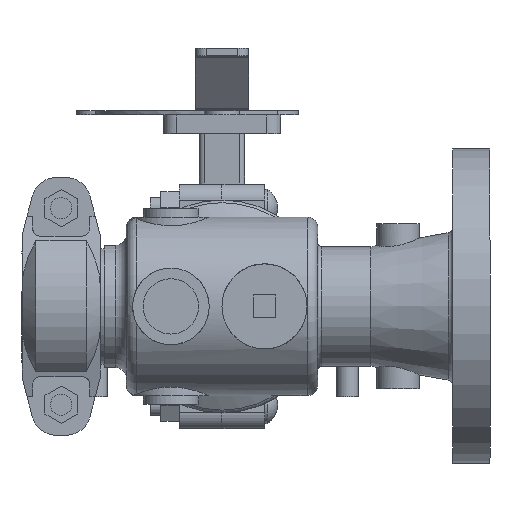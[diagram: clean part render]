
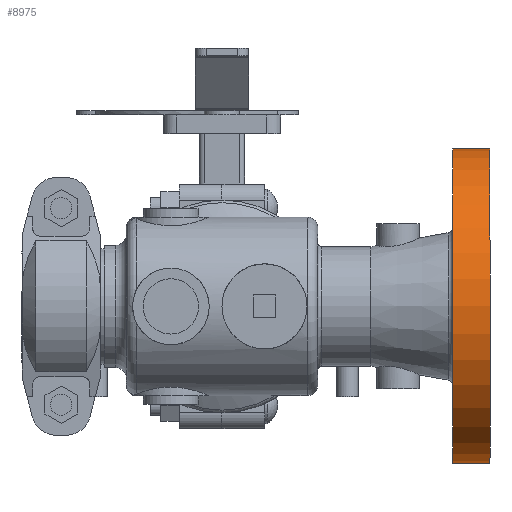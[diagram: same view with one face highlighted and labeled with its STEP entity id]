
A CAD part, front view. The second image highlights one B-rep face of the part: STEP entity #8975.
In plain terms, the highlighted cylindrical face has radius 93.98 mm (diameter 187.96 mm), a full revolution.
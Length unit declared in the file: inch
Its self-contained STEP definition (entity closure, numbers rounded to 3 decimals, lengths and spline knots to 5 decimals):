
#641=FACE_OUTER_BOUND('',#1144,.T.);
#1144=EDGE_LOOP('',(#5863,#5864,#5865,#5866,#5867,#5868));
#1776=CIRCLE('',#9713,3.7);
#1777=CIRCLE('',#9714,3.7);
#1782=CIRCLE('',#9720,3.7);
#1783=CIRCLE('',#9721,3.7);
#2243=LINE('',#14249,#2906);
#2906=VECTOR('',#10864,3.7);
#3607=VERTEX_POINT('',#14235);
#3608=VERTEX_POINT('',#14236);
#3613=VERTEX_POINT('',#14248);
#3614=VERTEX_POINT('',#14250);
#4503=EDGE_CURVE('',#3607,#3608,#1776,.T.);
#4504=EDGE_CURVE('',#3608,#3607,#1777,.T.);
#4509=EDGE_CURVE('',#3608,#3613,#2243,.T.);
#4510=EDGE_CURVE('',#3613,#3614,#1782,.T.);
#4511=EDGE_CURVE('',#3614,#3613,#1783,.T.);
#5863=ORIENTED_EDGE('',*,*,#4503,.F.);
#5864=ORIENTED_EDGE('',*,*,#4504,.F.);
#5865=ORIENTED_EDGE('',*,*,#4509,.T.);
#5866=ORIENTED_EDGE('',*,*,#4510,.T.);
#5867=ORIENTED_EDGE('',*,*,#4511,.T.);
#5868=ORIENTED_EDGE('',*,*,#4509,.F.);
#8278=CYLINDRICAL_SURFACE('',#9719,3.7);
#8975=ADVANCED_FACE('',(#641),#8278,.T.);
#9713=AXIS2_PLACEMENT_3D('',#14237,#10850,#10851);
#9714=AXIS2_PLACEMENT_3D('',#14238,#10852,#10853);
#9719=AXIS2_PLACEMENT_3D('',#14247,#10862,#10863);
#9720=AXIS2_PLACEMENT_3D('',#14251,#10865,#10866);
#9721=AXIS2_PLACEMENT_3D('',#14252,#10867,#10868);
#10850=DIRECTION('center_axis',(1.,0.,0.));
#10851=DIRECTION('ref_axis',(0.,0.,-1.));
#10852=DIRECTION('center_axis',(1.,0.,0.));
#10853=DIRECTION('ref_axis',(0.,0.,-1.));
#10862=DIRECTION('center_axis',(1.,0.,0.));
#10863=DIRECTION('ref_axis',(0.,1.,0.));
#10864=DIRECTION('',(-1.,0.,0.));
#10865=DIRECTION('center_axis',(1.,0.,0.));
#10866=DIRECTION('ref_axis',(0.,0.,-1.));
#10867=DIRECTION('center_axis',(1.,0.,0.));
#10868=DIRECTION('ref_axis',(0.,0.,-1.));
#14235=CARTESIAN_POINT('',(6.3,3.7,0.));
#14236=CARTESIAN_POINT('',(6.3,-3.7,0.));
#14237=CARTESIAN_POINT('Origin',(6.3,0.,0.));
#14238=CARTESIAN_POINT('Origin',(6.3,0.,0.));
#14247=CARTESIAN_POINT('Origin',(5.86,0.,0.));
#14248=CARTESIAN_POINT('',(5.42,-3.7,0.));
#14249=CARTESIAN_POINT('',(5.86,-3.7,0.));
#14250=CARTESIAN_POINT('',(5.42,3.7,0.));
#14251=CARTESIAN_POINT('Origin',(5.42,0.,0.));
#14252=CARTESIAN_POINT('Origin',(5.42,0.,0.));
